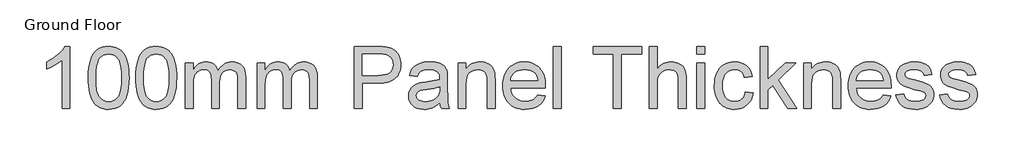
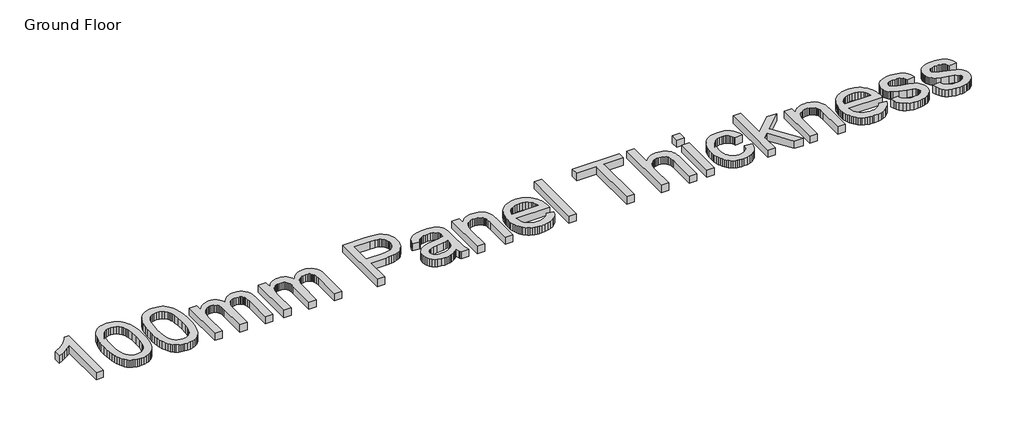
# One storey, part 8 of 8: 1 proxy.
"""IFC4 building model written with IfcOpenShell, lengths in millimetres."""

import ifcopenshell
import ifcopenshell.guid

model = None  # the IFC model being written
_history = None  # IfcOwnerHistory: only IFC2X3 demands one
_inside = {}  # id of a spatial element -> (the spatial element, [elements in it])
_under = {}  # id of a project, library or spatial element -> (it, [spatial elements below it])
_declared = {}  # id of a project -> (the project, [libraries it declares])
_typed = {}  # id of a type object -> (the type object, [elements of that type])
_made_of = {}  # id of a material, layer set ... -> (it, [elements and type objects made of it])


def new_model(schema):
    """Start an empty IFC model of exactly this schema.

    Asked for "IFC4X3", IfcOpenShell would pick the latest addendum, in which some entities
    have other attributes; the version numbers below select the first issue.
    IFC2X3 requires an IfcOwnerHistory on every rooted entity: one is made here for all.
    """
    global model, _history
    if schema == "IFC4X3":
        model = ifcopenshell.file(schema_version=(4, 3, 0, 0))
    else:
        model = ifcopenshell.file(schema=schema)
    _inside.clear()
    _under.clear()
    _declared.clear()
    _typed.clear()
    _made_of.clear()
    _history = None
    if model.schema == "IFC2X3":
        org = make("IfcOrganization", Name="unknown")
        user = make(
            "IfcPersonAndOrganization",
            ThePerson=make("IfcPerson", FamilyName="unknown"),
            TheOrganization=org,
        )
        app = make(
            "IfcApplication",
            ApplicationDeveloper=org,
            Version="unknown",
            ApplicationFullName="unknown",
            ApplicationIdentifier="unknown",
        )
        _history = make(
            "IfcOwnerHistory",
            OwningUser=user,
            OwningApplication=app,
            ChangeAction="ADDED",
            CreationDate=0,
        )
    return model


def make(cls, **values):
    """One entity of the class cls with the attributes given. An attribute that is None is left unset."""
    return model.create_entity(
        cls, **{name: value for name, value in values.items() if value is not None}
    )


def rooted(cls, **values):
    """An entity with a GlobalId (a new one), such as an element, a storey or a relation."""
    return make(cls, GlobalId=ifcopenshell.guid.new(), OwnerHistory=_history, **values)


def si_unit(unit_type, name, prefix=None):
    """IfcSIUnit, for example si_unit("LENGTHUNIT", "METRE", prefix="MILLI")."""
    return make("IfcSIUnit", UnitType=unit_type, Prefix=prefix, Name=name)


def assignment(units):
    """IfcUnitAssignment: the units of a project."""
    return None if units is None else make("IfcUnitAssignment", Units=units)


def point(xyz):
    """IfcCartesianPoint."""
    return None if xyz is None else make("IfcCartesianPoint", Coordinates=xyz)


def direction(xyz):
    """IfcDirection."""
    return None if xyz is None else make("IfcDirection", DirectionRatios=xyz)


def frame(location, z_axis=None, x_axis=None):
    """IfcAxis2Placement3D, a coordinate frame: its origin and axes. An axis left out is left unset."""
    return make(
        "IfcAxis2Placement3D",
        Location=point(location),
        Axis=direction(z_axis),
        RefDirection=direction(x_axis),
    )


def origin():
    """The frame at (0, 0, 0) with its axes left unset."""
    return frame((0.0, 0.0, 0.0))


def origin_with_axes():
    """The frame at (0, 0, 0) with the z axis (0, 0, 1) and the x axis (1, 0, 0) written out."""
    return frame((0.0, 0.0, 0.0), z_axis=(0.0, 0.0, 1.0), x_axis=(1.0, 0.0, 0.0))


def place(relative_to, where):
    """IfcLocalPlacement: puts the frame where relative to a parent placement (None: the world)."""
    return make(
        "IfcLocalPlacement", PlacementRelTo=relative_to, RelativePlacement=where
    )


def context(
    kind, dimensions, precision=None, world=None, true_north=None, identifier=None
):
    """IfcGeometricRepresentationContext, for example the 3D "Model" context."""
    return make(
        "IfcGeometricRepresentationContext",
        ContextIdentifier=identifier,
        ContextType=kind,
        CoordinateSpaceDimension=dimensions,
        Precision=precision,
        WorldCoordinateSystem=world,
        TrueNorth=true_north,
    )


def project(units=None, contexts=None):
    """IfcProject with its units and contexts."""
    return rooted(
        "IfcProject",
        Name="project",
        RepresentationContexts=contexts,
        UnitsInContext=assignment(units),
    )


def spatial(cls, under=None, at=None, **own):
    """A site, building, storey or space (cls), placed at a placement, below another one or the project."""
    s = rooted(cls, ObjectPlacement=at, **own)
    if under is not None:
        _under.setdefault(under.id(), (under, []))[1].append(s)
    return s


def polyline(points):
    """IfcPolyline through the points."""
    return make("IfcPolyline", Points=[point(p) for p in points])


def outline(outer, holes=None, kind="AREA"):
    """IfcArbitraryClosedProfileDef: a profile drawn as a closed curve; with holes, ...WithVoids."""
    if holes is None:
        return make("IfcArbitraryClosedProfileDef", ProfileType=kind, OuterCurve=outer)
    return make(
        "IfcArbitraryProfileDefWithVoids",
        ProfileType=kind,
        OuterCurve=outer,
        InnerCurves=holes,
    )


def extrude(swept, where, along, depth):
    """IfcExtrudedAreaSolid: the profile swept, set in the frame where, extruded along a direction by depth."""
    return make(
        "IfcExtrudedAreaSolid",
        SweptArea=swept,
        Position=where,
        ExtrudedDirection=direction(along),
        Depth=depth,
    )


def shape(context_of_items, identifier, shape_type, items):
    """IfcShapeRepresentation: the items that make up one representation, for example the "Body"."""
    return make(
        "IfcShapeRepresentation",
        ContextOfItems=context_of_items,
        RepresentationIdentifier=identifier,
        RepresentationType=shape_type,
        Items=items,
    )


def made_of(thing, what):
    """Note that an element or type object is made of a material, layer set ...; save() writes the relation."""
    if what is not None:
        _made_of.setdefault(what.id(), (what, []))[1].append(thing)
    return thing


def element(
    cls,
    number,
    at=None,
    inside=None,
    cuts=None,
    type_object=None,
    material=None,
    context=None,
    identifier="Body",
    shape_type=None,
    held_by="IfcProductDefinitionShape",
    body=None,
    shapes=None,
    **own,
):
    """One element of the class cls, such as IfcWall. Its Tag is "e" and its number.

    at: its placement. inside: the storey or other place that contains it. cuts: it is an
    opening in that element (IfcRelVoidsElement). A single representation is given by context,
    identifier, shape_type and body (its items); several are given by shapes. held_by: the class
    of the entity that holds the representations. save() writes the other relations.
    """
    e = rooted(cls, Tag="e%d" % number, ObjectPlacement=at, **own)
    if body is not None:
        shapes = [shape(context, identifier, shape_type, body)]
    if shapes is not None:
        e.Representation = make(held_by, Representations=shapes)
    if inside is not None:
        _inside.setdefault(inside.id(), (inside, []))[1].append(e)
    if cuts is not None:
        rooted(
            "IfcRelVoidsElement", RelatingBuildingElement=cuts, RelatedOpeningElement=e
        )
    if type_object is not None:
        _typed.setdefault(type_object.id(), (type_object, []))[1].append(e)
    return made_of(e, material)


def aggregate(whole, parts):
    """IfcRelAggregates: a whole, such as a stair, and the parts it consists of."""
    return rooted("IfcRelAggregates", RelatingObject=whole, RelatedObjects=parts)


def save(model, path):
    """Write the relations noted so far, then the file.

    IfcRelAggregates (storeys below a building ...), IfcRelContainedInSpatialStructure (elements
    in a storey), IfcRelDefinesByType, IfcRelAssociatesMaterial and IfcRelDeclares: one each for
    every whole, place, type object, material and project.
    """
    for whole, parts in _under.values():
        aggregate(whole, parts)
    for where, things in _inside.values():
        rooted(
            "IfcRelContainedInSpatialStructure",
            RelatedElements=things,
            RelatingStructure=where,
        )
    for kind, things in _typed.values():
        rooted("IfcRelDefinesByType", RelatedObjects=things, RelatingType=kind)
    for what, things in _made_of.values():
        rooted("IfcRelAssociatesMaterial", RelatedObjects=things, RelatingMaterial=what)
    for by, libraries in _declared.values():
        rooted("IfcRelDeclares", RelatingContext=by, RelatedDefinitions=libraries)
    model.write(path)


model = new_model("IFC4")

# Units and contexts
model_context = context("Model", 3, world=origin())
ifc_project = project(units=[si_unit("LENGTHUNIT", "METRE", prefix="MILLI")], contexts=[model_context])

# Site, building, storey
site = spatial("IfcSite", under=ifc_project)
building = spatial("IfcBuilding", under=site)
storey = spatial("IfcBuildingStorey", under=building, Name="Ground Floor", Elevation=0.0)

# Proxy
placement = place(None, origin())
element("IfcBuildingElementProxy", 1, Name="1200mm Arial", ObjectType="1200mm Arial", at=placement, inside=storey, context=model_context, shape_type="SweptSolid", body=[
    extrude(outline(polyline([(11867.9925063, 10511.1336271), (11721.0834154, 10511.1336271), (11721.0834154, 11427.0199908), (11659.7517393, 11377.4166527), (11581.9214836, 11327.8850476), (11500.2176484, 11284.5942095), (11427.2652336, 11253.7131726), (11427.2652336, 11392.5881726), (11486.8842854, 11422.4828814), (11542.647691, 11455.3545078), (11594.5554502, 11491.2030519), (11642.6075631, 11530.0285135), (11685.3693707, 11570.0375689), (11721.4062137, 11609.4368942), (11750.7180922, 11648.2264894), (11773.3050063, 11686.4063544), (11867.9925063, 11686.4063544), (11867.9925063, 10511.1336271)])), origin_with_axes(), (0.0, 0.0, 1.0), 150.0),
    extrude(outline(polyline([(12216.9015972, 11089.3012408), (12219.6005496, 11188.1223523), (12227.6974069, 11277.4209141), (12241.1921689, 11357.1969261), (12260.0848359, 11427.4503885), (12284.294708, 11488.7551648), (12313.7410859, 11541.6851186), (12348.4239694, 11586.24025), (12388.3433586, 11622.420559), (12433.6337528, 11650.4143445), (12484.4296512, 11670.4099055), (12540.7310539, 11682.4072422), (12602.5379609, 11686.4063544), (12648.9850489, 11684.0391669), (12693.0649495, 11676.9376044), (12734.7776626, 11665.1016669), (12774.1231881, 11648.5313544), (12810.1510645, 11627.5046321), (12841.9108302, 11602.2994652), (12869.402485, 11572.9158537), (12892.626029, 11539.3537976), (12912.7471228, 11501.7477962), (12930.9314268, 11460.2323487), (12961.4896654, 11365.4731158), (12973.1642037, 11309.7455767), (12981.5031597, 11245.1410845), (12986.5065333, 11171.6596392), (12988.1743245, 11089.3012408), (12985.5022719, 10991.1077926), (12977.4861143, 10902.2575618), (12964.1258515, 10822.7505483), (12945.4214836, 10752.5867521), (12921.3999104, 10691.255076), (12892.0880319, 10638.2444226), (12857.4858479, 10593.5547919), (12817.5933586, 10557.186184), (12772.2491647, 10529.0040994), (12721.2918671, 10508.8740391), (12664.7214658, 10496.7960028), (12602.5379609, 10492.7699908), (12560.9328472, 10494.5184815), (12521.6231881, 10499.7639538), (12484.6089836, 10508.5064077), (12449.8902336, 10520.745843), (12417.4669381, 10536.48226), (12387.3390972, 10555.7156584), (12359.5067109, 10578.4460384), (12333.969779, 10604.6733999), (12306.5319239, 10646.2022972), (12282.7524495, 10693.1739325), (12262.6313557, 10745.5883058), (12246.1686427, 10803.4454169), (12233.3643103, 10866.745266), (12224.2183586, 10935.487853), (12218.7307876, 11009.6731779), (12216.9015972, 11089.3012408)]), holes=[polyline([(12363.8106881, 11089.5881726), (12368.1146654, 10961.8766136), (12381.0265972, 10858.5004595), (12390.7105461, 10815.9381593), (12402.5464836, 10779.4597102), (12416.5344097, 10749.0651124), (12432.6743245, 10724.7543658), (12469.1146654, 10687.533929), (12509.5720518, 10660.9479027), (12554.0464836, 10644.9962869), (12602.5379609, 10639.6790817), (12651.0294381, 10645.0142202), (12695.5038699, 10661.0196357), (12735.9612563, 10687.6953281), (12772.4015972, 10725.0412976), (12788.541512, 10749.4103272), (12802.5294381, 10779.8363082), (12814.3653756, 10816.3192406), (12824.0493245, 10858.8591243), (12836.9612563, 10962.1097457), (12841.2652336, 11089.5881726), (12837.1047222, 11213.9193161), (12824.6231881, 11315.4752465), (12815.2620376, 11357.7125068), (12803.8206313, 11394.2559638), (12790.2989694, 11425.1056176), (12774.6970518, 11450.261468), (12738.866441, 11489.3021286), (12697.9427904, 11517.1883146), (12651.9261001, 11533.9200263), (12600.8163699, 11539.4972635), (12552.575958, 11534.5835561), (12508.8547222, 11519.842434), (12469.6526626, 11495.273897), (12434.969779, 11460.8779453), (12418.2918671, 11433.045559), (12403.8376768, 11399.904934), (12391.607208, 11361.4560703), (12381.6004609, 11317.698968), (12368.2581313, 11214.2600476), (12363.8106881, 11089.5881726)])]), origin_with_axes(), (0.0, 0.0, 1.0), 150.0),
    extrude(outline(polyline([(13116.719779, 11089.3012408), (13119.4187314, 11188.1223523), (13127.5155887, 11277.4209141), (13141.0103508, 11357.1969261), (13159.9030177, 11427.4503885), (13184.1128898, 11488.7551648), (13213.5592677, 11541.6851186), (13248.2421512, 11586.24025), (13288.1615404, 11622.420559), (13333.4519346, 11650.4143445), (13384.247833, 11670.4099055), (13440.5492357, 11682.4072422), (13502.3561427, 11686.4063544), (13548.8032307, 11684.0391669), (13592.8831313, 11676.9376044), (13634.5958444, 11665.1016669), (13673.9413699, 11648.5313544), (13709.9692464, 11627.5046321), (13741.729012, 11602.2994652), (13769.2206668, 11572.9158537), (13792.4442109, 11539.3537976), (13812.5653046, 11501.7477962), (13830.7496086, 11460.2323487), (13861.3078472, 11365.4731158), (13872.9823856, 11309.7455767), (13881.3213415, 11245.1410845), (13886.3247151, 11171.6596392), (13887.9925063, 11089.3012408), (13885.3204537, 10991.1077926), (13877.3042961, 10902.2575618), (13863.9440333, 10822.7505483), (13845.2396654, 10752.5867521), (13821.2180922, 10691.255076), (13791.9062137, 10638.2444226), (13757.3040297, 10593.5547919), (13717.4115404, 10557.186184), (13672.0673465, 10529.0040994), (13621.1100489, 10508.8740391), (13564.5396476, 10496.7960028), (13502.3561427, 10492.7699908), (13460.751029, 10494.5184815), (13421.4413699, 10499.7639538), (13384.4271654, 10508.5064077), (13349.7084154, 10520.745843), (13317.2851199, 10536.48226), (13287.157279, 10555.7156584), (13259.3248927, 10578.4460384), (13233.7879609, 10604.6733999), (13206.3501057, 10646.2022972), (13182.5706313, 10693.1739325), (13162.4495376, 10745.5883058), (13145.9868245, 10803.4454169), (13133.1824921, 10866.745266), (13124.0365404, 10935.487853), (13118.5489694, 11009.6731779), (13116.719779, 11089.3012408)]), holes=[polyline([(13263.6288699, 11089.5881726), (13267.9328472, 10961.8766136), (13280.844779, 10858.5004595), (13290.5287279, 10815.9381593), (13302.3646654, 10779.4597102), (13316.3525915, 10749.0651124), (13332.4925063, 10724.7543658), (13368.9328472, 10687.533929), (13409.3902336, 10660.9479027), (13453.8646654, 10644.9962869), (13502.3561427, 10639.6790817), (13550.8476199, 10645.0142202), (13595.3220518, 10661.0196357), (13635.7794381, 10687.6953281), (13672.219779, 10725.0412976), (13688.3596938, 10749.4103272), (13702.3476199, 10779.8363082), (13714.1835574, 10816.3192406), (13723.8675063, 10858.8591243), (13736.7794381, 10962.1097457), (13741.0834154, 11089.5881726), (13736.922904, 11213.9193161), (13724.4413699, 11315.4752465), (13715.0802194, 11357.7125068), (13703.6388131, 11394.2559638), (13690.1171512, 11425.1056176), (13674.5152336, 11450.261468), (13638.6846228, 11489.3021286), (13597.7609722, 11517.1883146), (13551.7442819, 11533.9200263), (13500.6345518, 11539.4972635), (13452.3941398, 11534.5835561), (13408.672904, 11519.842434), (13369.4708444, 11495.273897), (13334.7879609, 11460.8779453), (13318.1100489, 11433.045559), (13303.6558586, 11399.904934), (13291.4253898, 11361.4560703), (13281.4186427, 11317.698968), (13268.0763131, 11214.2600476), (13263.6288699, 11089.5881726)])]), origin_with_axes(), (0.0, 0.0, 1.0), 150.0),
    extrude(outline(polyline([(14053.2652336, 10511.1336271), (14053.2652336, 11374.2245362), (14200.1743245, 11374.2245362), (14200.1743245, 11232.1932862), (14220.6899495, 11266.5802713), (14244.3618245, 11297.4344084), (14271.1899495, 11324.7556975), (14301.1743245, 11348.5441385), (14333.830752, 11367.8134034), (14368.6750347, 11381.5771641), (14405.7071725, 11389.8354205), (14444.9271654, 11392.5881726), (14487.805539, 11389.7816207), (14526.6310006, 11381.3619652), (14561.4035503, 11367.329206), (14592.1231881, 11347.683343), (14618.7002478, 11322.9803068), (14641.0450631, 11293.7760277), (14659.1576341, 11260.0705057), (14673.0379609, 11221.8637408), (14698.8707911, 11261.8772795), (14726.5866114, 11296.5556797), (14756.1854218, 11325.8989414), (14787.6672222, 11349.9070646), (14821.0320127, 11368.5800494), (14856.2797932, 11381.9178956), (14893.4105638, 11389.9206033), (14932.4243245, 11392.5881726), (14991.2363806, 11388.149696), (15042.857208, 11374.8342663), (15087.2868067, 11352.6418835), (15124.5251768, 11321.5725476), (15153.962588, 11281.2675938), (15174.9893103, 11231.3683573), (15187.6053437, 11171.8748381), (15191.8106881, 11102.7870362), (15191.8106881, 10511.1336271), (15044.9015972, 10511.1336271), (15044.9015972, 11039.6620362), (15041.4942819, 11112.9372493), (15031.2723359, 11162.3253885), (15023.0768458, 11180.1420611), (15012.119637, 11196.1474766), (14998.4007094, 11210.341635), (14981.9200631, 11222.7245362), (14963.2784616, 11232.7671499), (14943.0766682, 11239.9404453), (14897.9925063, 11245.6790817), (14856.3604928, 11242.0027678), (14818.4047932, 11230.973826), (14784.1254076, 11212.5922564), (14753.5223359, 11186.858059), (14728.3530354, 11153.0180377), (14710.3749637, 11110.3189965), (14699.5881207, 11058.7609354), (14695.9925063, 10998.3438544), (14695.9925063, 10511.1336271), (14549.0834154, 10511.1336271), (14549.0834154, 11056.0171499), (14546.9583266, 11100.5274482), (14540.5830603, 11139.0839112), (14529.9576164, 11171.6865391), (14515.0819949, 11198.3353317), (14495.3643991, 11219.0482223), (14470.2130319, 11233.8431442), (14439.6278934, 11242.7200973), (14403.6089836, 11245.6790817), (14374.7544026, 11243.7064254), (14347.0116824, 11237.7884567), (14320.3808231, 11227.9251754), (14294.8618245, 11214.1165817), (14271.6203472, 11196.5061413), (14251.8220518, 11175.2373203), (14235.4669381, 11150.3101186), (14222.5550063, 11121.7245362), (14212.763458, 11087.9562479), (14205.7694949, 11047.4809283), (14200.1743245, 10946.4091953), (14200.1743245, 10511.1336271), (14053.2652336, 10511.1336271)])), origin_with_axes(), (0.0, 0.0, 1.0), 150.0),
    extrude(outline(polyline([(15412.1743245, 10511.1336271), (15412.1743245, 11374.2245362), (15559.0834154, 11374.2245362), (15559.0834154, 11232.1932862), (15579.5990404, 11266.5802713), (15603.2709154, 11297.4344084), (15630.0990404, 11324.7556975), (15660.0834154, 11348.5441385), (15692.739843, 11367.8134034), (15727.5841256, 11381.5771641), (15764.6162634, 11389.8354205), (15803.8362563, 11392.5881726), (15846.7146299, 11389.7816207), (15885.5400915, 11381.3619652), (15920.3126412, 11367.329206), (15951.032279, 11347.683343), (15977.6093387, 11322.9803068), (15999.954154, 11293.7760277), (16018.0667251, 11260.0705057), (16031.9470518, 11221.8637408), (16057.779882, 11261.8772795), (16085.4957023, 11296.5556797), (16115.0945127, 11325.8989414), (16146.5763131, 11349.9070646), (16179.9411036, 11368.5800494), (16215.1888841, 11381.9178956), (16252.3196547, 11389.9206033), (16291.3334154, 11392.5881726), (16350.1454715, 11388.149696), (16401.7662989, 11374.8342663), (16446.1958976, 11352.6418835), (16483.4342677, 11321.5725476), (16512.8716789, 11281.2675938), (16533.8984012, 11231.3683573), (16546.5144346, 11171.8748381), (16550.719779, 11102.7870362), (16550.719779, 10511.1336271), (16403.8106881, 10511.1336271), (16403.8106881, 11039.6620362), (16400.4033728, 11112.9372493), (16390.1814268, 11162.3253885), (16381.9859367, 11180.1420611), (16371.0287279, 11196.1474766), (16357.3098003, 11210.341635), (16340.829154, 11222.7245362), (16322.1875525, 11232.7671499), (16301.9857591, 11239.9404453), (16256.9015972, 11245.6790817), (16215.2695837, 11242.0027678), (16177.3138841, 11230.973826), (16143.0344985, 11212.5922564), (16112.4314268, 11186.858059), (16087.2621263, 11153.0180377), (16069.2840546, 11110.3189965), (16058.4972116, 11058.7609354), (16054.9015972, 10998.3438544), (16054.9015972, 10511.1336271), (15907.9925063, 10511.1336271), (15907.9925063, 11056.0171499), (15905.8674175, 11100.5274482), (15899.4921512, 11139.0839112), (15888.8667073, 11171.6865391), (15873.9910859, 11198.3353317), (15854.27349, 11219.0482223), (15829.1221228, 11233.8431442), (15798.5369843, 11242.7200973), (15762.5180745, 11245.6790817), (15733.6634935, 11243.7064254), (15705.9207734, 11237.7884567), (15679.289914, 11227.9251754), (15653.7709154, 11214.1165817), (15630.5294381, 11196.5061413), (15610.7311427, 11175.2373203), (15594.376029, 11150.3101186), (15581.4640972, 11121.7245362), (15571.6725489, 11087.9562479), (15564.6785859, 11047.4809283), (15559.0834154, 10946.4091953), (15559.0834154, 10511.1336271), (15412.1743245, 10511.1336271)])), origin_with_axes(), (0.0, 0.0, 1.0), 150.0),
    extrude(outline(polyline([(17248.5379609, 10511.1336271), (17248.5379609, 11686.4063544), (17684.1004609, 11686.4063544), (17785.5308586, 11683.6087692), (17859.7027336, 11675.2160135), (17900.581551, 11666.4018267), (17937.9992535, 11654.3058573), (17971.9558408, 11638.9281051), (18002.4513131, 11620.2685703), (18029.8084687, 11597.9416882), (18054.3501057, 11571.5618942), (18076.0762243, 11541.1291882), (18094.9868245, 11506.6435703), (18110.3018103, 11469.2438011), (18121.2410859, 11430.0686413), (18127.8046512, 11389.1180909), (18129.9925063, 11346.3921499), (18124.0835042, 11274.2467308), (18116.6972515, 11240.3394599), (18106.3564978, 11207.8758146), (18093.061243, 11176.8557951), (18076.8114871, 11147.2794013), (18057.6072302, 11119.1466332), (18035.4484722, 11092.4574908), (18009.4340679, 11068.1131193), (17978.6628721, 11047.0146641), (17943.1348847, 11029.162125), (17902.8501057, 11014.5555021), (17857.8085352, 11003.1947955), (17808.0101732, 10995.080005), (17753.4550196, 10990.2111307), (17694.1430745, 10988.5881726), (17395.4470518, 10988.5881726), (17395.4470518, 10511.1336271), (17248.5379609, 10511.1336271)]), holes=[polyline([(17395.4470518, 11135.4972635), (17702.751029, 11135.4972635), (17773.4079893, 11138.8687124), (17833.0180745, 11148.983059), (17881.5812847, 11165.8403033), (17919.0976199, 11189.4404453), (17947.0914055, 11219.1558217), (17967.0869665, 11254.3587692), (17979.0843032, 11295.0492877), (17983.0834154, 11341.2273771), (17980.7251945, 11375.5157294), (17973.6505319, 11407.2216953), (17961.8594275, 11436.3452749), (17945.3518813, 11462.886468), (17925.0066221, 11485.9844794), (17901.7023785, 11504.7785135), (17875.4391505, 11519.2685703), (17846.2169381, 11529.4546499), (17789.547904, 11536.9866101), (17699.3078472, 11539.4972635), (17395.4470518, 11539.4972635), (17395.4470518, 11135.4972635)])]), origin_with_axes(), (0.0, 0.0, 1.0), 150.0),
    extrude(outline(polyline([(18864.5379609, 10621.3154453), (18829.7026448, 10588.6231513), (18794.3472648, 10561.1314965), (18758.4718209, 10538.8404808), (18722.0763131, 10521.7501044), (18684.7482769, 10509.0713047), (18646.0752478, 10500.0150192), (18606.0572258, 10494.5812479), (18564.6942109, 10492.7699908), (18499.2827229, 10497.1277678), (18441.9232591, 10510.2010987), (18392.6158195, 10531.9899837), (18351.360404, 10562.4944226), (18318.784676, 10599.7776257), (18295.5162989, 10641.9028033), (18281.5552726, 10688.8699553), (18276.9015972, 10740.6790817), (18278.6590546, 10771.8291172), (18283.9314268, 10801.5803601), (18292.7187137, 10829.9328104), (18305.0209154, 10856.886468), (18320.1834687, 10881.8495362), (18337.5518103, 10904.230218), (18357.1259403, 10924.0285135), (18378.9058586, 10941.2444226), (18427.5049353, 10969.2202749), (18481.7709154, 10989.448968), (18534.6381029, 11000.7110419), (18608.8817109, 11011.542718), (18759.0905177, 11034.7841953), (18817.0866114, 11047.911326), (18863.6771654, 11062.042718), (18864.5379609, 11094.7529453), (18862.0093742, 11130.3683573), (18854.4236143, 11160.3168658), (18841.780681, 11184.5984709), (18824.0805745, 11203.2131726), (18793.4864694, 11221.7920078), (18756.2211995, 11235.0626044), (18712.2847648, 11243.0249624), (18661.6771654, 11245.6790817), (18614.6203472, 11243.9126577), (18574.1629609, 11238.6133857), (18540.3050063, 11229.7812656), (18513.0464836, 11217.4162976), (18490.6478685, 11200.5500867), (18471.369637, 11178.2142379), (18455.211789, 11150.4087514), (18442.1743245, 11117.1336271), (18295.2652336, 11135.4972635), (18306.4466079, 11177.8197067), (18320.7662989, 11215.8381726), (18338.2243067, 11249.5526612), (18358.8206313, 11278.9631726), (18383.442968, 11304.6615036), (18412.979012, 11327.239451), (18447.4287634, 11346.6970149), (18486.7922222, 11363.0341953), (18530.2713593, 11375.9640604), (18577.0681455, 11385.1996783), (18627.1825809, 11390.741049), (18680.6146654, 11392.5881726), (18732.8452229, 11390.9562479), (18779.928941, 11386.0604737), (18821.8658195, 11377.9008502), (18858.6558586, 11366.4773771), (18890.6039232, 11352.5880838), (18918.0148785, 11337.0309993), (18940.8887243, 11319.8061236), (18959.2254609, 11300.9134567), (18974.0921157, 11279.8867344), (18986.5557165, 11256.2596925), (19004.2737563, 11201.2046499), (19009.6537279, 11150.417718), (19011.4470518, 11072.6591953), (19011.4470518, 10889.8836271), (19013.3121086, 10730.6723345), (19018.907279, 10634.6577749), (19029.954154, 10571.5686413), (19048.1743245, 10511.1336271), (18901.2652336, 10511.1336271), (18888.2098359, 10535.6662976), (18877.7368245, 10562.2074908), (18864.5379609, 10621.3154453)]), holes=[polyline([(18864.5379609, 10915.1336271), (18820.135262, 10902.4189609), (18765.8334154, 10890.6726896), (18627.532279, 10870.0853317), (18551.3160148, 10858.8232578), (18501.1388131, 10846.2699908), (18468.2492535, 10829.9866101), (18443.8959154, 10807.5341953), (18428.8319949, 10780.6343374), (18423.8106881, 10751.0086271), (18426.545507, 10728.1796144), (18434.7499637, 10707.3232578), (18448.4240582, 10688.4395575), (18467.5677904, 10671.5285135), (18492.001828, 10657.5943871), (18521.5468387, 10647.6414396), (18556.2028224, 10641.6696712), (18595.969779, 10639.6790817), (18636.5706313, 10641.8759034), (18674.876029, 10648.4663686), (18710.8859722, 10659.4504773), (18744.6004609, 10674.8282294), (18775.0152336, 10693.3263651), (18801.126029, 10713.6716243), (18822.9328472, 10735.8640071), (18840.4356881, 10759.9035135), (18850.6038344, 10781.4233999), (18857.8667961, 10807.5341953), (18862.2245731, 10838.2358999), (18863.6771654, 10873.5285135), (18864.5379609, 10915.1336271)])]), origin_with_axes(), (0.0, 0.0, 1.0), 150.0),
    extrude(outline(polyline([(19213.4470518, 10511.1336271), (19213.4470518, 11374.2245362), (19360.3561427, 11374.2245362), (19360.3561427, 11253.7131726), (19384.5929147, 11286.2620007), (19411.3941398, 11314.4709851), (19440.7598181, 11338.3401257), (19472.6899495, 11357.8694226), (19507.184534, 11373.0588757), (19544.2435716, 11383.9084851), (19583.8670624, 11390.4182507), (19626.0550063, 11392.5881726), (19663.0243778, 11390.8396818), (19698.4694239, 11385.5942095), (19732.3901448, 11376.8517557), (19764.7865404, 11364.6123203), (19794.4301839, 11349.5304666), (19820.0926484, 11332.2607578), (19841.7739339, 11312.8031939), (19859.4740404, 11291.1577749), (19886.194566, 11241.4109709), (19903.5180745, 11183.1279453), (19909.3284438, 11127.3914396), (19911.2652336, 11041.0966953), (19911.2652336, 10511.1336271), (19764.3561427, 10511.1336271), (19764.3561427, 11021.2983999), (19760.1238984, 11097.2635987), (19754.833593, 11127.0148416), (19747.4271654, 11151.2785135), (19737.3397187, 11171.7134389), (19724.0063557, 11189.9784425), (19707.4270766, 11206.0735242), (19687.6018813, 11219.998684), (19665.2122329, 11231.233858), (19640.9395944, 11239.2589823), (19614.7839658, 11244.0740568), (19586.7453472, 11245.6790817), (19542.1364161, 11242.0745007), (19500.7016682, 11231.2607578), (19462.4411036, 11213.237853), (19427.3547222, 11188.0057862), (19411.6519301, 11171.9689876), (19398.0428437, 11152.6952394), (19386.5274628, 11130.1845416), (19377.1057876, 11104.4368942), (19364.5435539, 11043.2307507), (19360.3561427, 10969.076809), (19360.3561427, 10511.1336271), (19213.4470518, 10511.1336271)])), origin_with_axes(), (0.0, 0.0, 1.0), 150.0),
    extrude(outline(polyline([(20717.5436427, 10768.2245362), (20861.5834154, 10749.8608999), (20839.498632, 10692.1696712), (20809.6846228, 10641.3289396), (20772.1413877, 10597.3387053), (20726.8689268, 10560.198968), (20674.3335042, 10530.6987905), (20615.0013841, 10509.6272351), (20548.8725667, 10496.9843019), (20475.9470518, 10492.7699908), (20429.127849, 10494.5879728), (20384.7923998, 10500.041919), (20342.9407041, 10509.1318294), (20303.572762, 10521.8577038), (20266.6885734, 10538.2195424), (20232.2881384, 10558.2173452), (20200.3714569, 10581.851112), (20170.938529, 10609.120843), (20144.5094186, 10639.6723567), (20121.6041895, 10673.1514716), (20102.2228419, 10709.5581877), (20086.3653756, 10748.892505), (20074.0317908, 10791.1544235), (20065.2220873, 10836.3439432), (20059.9362652, 10884.4610641), (20058.1743245, 10935.5057862), (20059.9541984, 10988.2877908), (20065.2938202, 11038.0301115), (20074.1931899, 11084.7327482), (20086.6523074, 11128.395701), (20102.6711729, 11169.0189698), (20122.2497861, 11206.6025547), (20145.3881473, 11241.1464556), (20172.0862563, 11272.6506726), (20201.6223003, 11300.7610242), (20233.2744665, 11325.1233288), (20267.0427549, 11345.7375867), (20302.9271654, 11362.6037976), (20340.9276981, 11375.7219617), (20381.0443529, 11385.0920788), (20423.2771299, 11390.7141492), (20467.626029, 11392.5881726), (20510.5245775, 11390.7186325), (20551.4190866, 11385.1100121), (20590.3095562, 11375.7623114), (20627.1959864, 11362.6755305), (20662.0783772, 11345.8496694), (20694.9567286, 11325.284728), (20725.8310406, 11300.9807063), (20754.7013131, 11272.9376044), (20780.8278002, 11241.5051204), (20803.4707556, 11207.0329524), (20822.6301794, 11169.5211005), (20838.3060716, 11128.9695646), (20850.4984323, 11085.3783448), (20859.2072613, 11038.7474411), (20864.4325587, 10989.0768533), (20866.1743245, 10936.3665817), (20865.313529, 10896.7699908), (20205.0834154, 10896.7699908), (20213.5927371, 10838.1462337), (20230.5127478, 10786.8033715), (20255.8434474, 10742.7414041), (20289.5848359, 10705.9603317), (20329.8718564, 10676.9622848), (20374.8394523, 10656.2493942), (20424.4876235, 10643.8216598), (20478.8163699, 10639.6790817), (20519.4530887, 10641.5979382), (20557.0052904, 10647.3545078), (20591.4729751, 10656.9487905), (20622.8561427, 10670.3807862), (20651.1547932, 10688.0091598), (20676.3689268, 10710.192576), (20698.4985432, 10736.9310348), (20717.5436427, 10768.2245362)]), holes=[polyline([(20205.0834154, 11043.6790817), (20719.2652336, 11043.6790817), (20711.7153401, 11085.2483288), (20699.3952052, 11121.2941385), (20682.3048287, 11151.8165107), (20660.4442109, 11176.8154453), (20620.3813557, 11206.9432862), (20574.7950631, 11228.4631726), (20523.685333, 11241.3751044), (20467.0521654, 11245.6790817), (20415.3954715, 11242.2448665), (20368.0248216, 11231.9422209), (20324.9402158, 11214.7711449), (20286.141654, 11190.7316385), (20253.5838593, 11160.9355625), (20229.2215546, 11126.4947777), (20213.05474, 11087.4092841), (20205.0834154, 11043.6790817)])]), origin_with_axes(), (0.0, 0.0, 1.0), 150.0),
    extrude(outline(polyline([(21013.0834154, 10511.1336271), (21013.0834154, 11686.4063544), (21159.9925063, 11686.4063544), (21159.9925063, 10511.1336271), (21013.0834154, 10511.1336271)])), origin_with_axes(), (0.0, 0.0, 1.0), 150.0),
    extrude(outline(polyline([(22151.6288699, 10511.1336271), (22151.6288699, 11539.4972635), (21765.9925063, 11539.4972635), (21765.9925063, 11686.4063544), (22684.1743245, 11686.4063544), (22684.1743245, 11539.4972635), (22298.5379609, 11539.4972635), (22298.5379609, 10511.1336271), (22151.6288699, 10511.1336271)])), origin_with_axes(), (0.0, 0.0, 1.0), 150.0),
    extrude(outline(polyline([(22831.0834154, 10511.1336271), (22831.0834154, 11686.4063544), (22977.9925063, 11686.4063544), (22977.9925063, 11254.2870362), (23004.1436515, 11286.7013651), (23031.9536214, 11314.7937834), (23061.4224158, 11338.5642912), (23092.5500347, 11358.0128885), (23125.3364783, 11373.1395753), (23159.7817464, 11383.9443516), (23195.885839, 11390.4272173), (23233.6487563, 11392.5881726), (23279.5757805, 11390.2299517), (23322.3824211, 11383.1552891), (23362.0686782, 11371.3641847), (23398.6345518, 11354.8566385), (23431.1475134, 11334.188581), (23458.6750347, 11309.9159425), (23481.2171157, 11282.038723), (23498.7737563, 11250.5569226), (23511.9546867, 11213.5247848), (23521.369637, 11168.9965533), (23527.0186072, 11116.972228), (23528.9015972, 11057.451809), (23528.9015972, 10511.1336271), (23381.9925063, 10511.1336271), (23381.9925063, 11042.2444226), (23379.0693884, 11091.8477607), (23370.3000347, 11134.2060703), (23355.6844452, 11169.3193516), (23335.2226199, 11197.1876044), (23309.3987563, 11218.4026257), (23278.6970518, 11233.5562124), (23243.1175063, 11242.6483644), (23202.6601199, 11245.6790817), (23171.142453, 11243.6346925), (23140.5752478, 11237.5015249), (23110.9585042, 11227.2795788), (23082.2922222, 11212.9688544), (23056.127627, 11195.1611484), (23034.0159438, 11174.4482578), (23015.9571725, 11150.8301825), (23001.9513131, 11124.3069226), (22991.4693351, 11093.6590178), (22983.982208, 11057.6670078), (22979.4899317, 11016.3308928), (22977.9925063, 10969.6506726), (22977.9925063, 10511.1336271), (22831.0834154, 10511.1336271)])), origin_with_axes(), (0.0, 0.0, 1.0), 150.0),
    extrude(outline(polyline([(23730.9015972, 10511.1336271), (23730.9015972, 11374.2245362), (23877.8106881, 11374.2245362), (23877.8106881, 10511.1336271), (23730.9015972, 10511.1336271)])), origin_with_axes(), (0.0, 0.0, 1.0), 150.0),
    extrude(outline(polyline([(23730.9015972, 11539.4972635), (23730.9015972, 11686.4063544), (23877.8106881, 11686.4063544), (23877.8106881, 11539.4972635), (23730.9015972, 11539.4972635)])), origin_with_axes(), (0.0, 0.0, 1.0), 150.0),
    extrude(outline(polyline([(24649.0834154, 10823.3154453), (24795.9925063, 10804.951809), (24780.0139907, 10735.630875), (24755.0329893, 10674.2902323), (24721.049502, 10620.9298807), (24678.063529, 10575.5498203), (24627.8863273, 10539.3336449), (24572.329154, 10513.4649482), (24511.3920091, 10497.9437301), (24445.0748927, 10492.7699908), (24402.8129742, 10494.5745229), (24362.6806278, 10499.9881193), (24324.6778534, 10509.01078), (24288.8046512, 10521.642505), (24255.061021, 10537.8832942), (24223.446963, 10557.7331477), (24193.962477, 10581.1920655), (24166.6075631, 10608.2600476), (24141.9605683, 10638.6994785), (24120.5998394, 10672.2727429), (24102.5253765, 10708.9798407), (24087.7371796, 10748.820772), (24076.2352487, 10791.7955368), (24068.0195837, 10837.904135), (24063.0901848, 10887.1465666), (24061.4470518, 10939.5228317), (24064.2536036, 11007.068375), (24072.6732591, 11070.2561413), (24086.7060184, 11129.0861307), (24106.3518813, 11183.558343), (24131.7453472, 11232.5788509), (24163.0209154, 11275.0537266), (24200.1785859, 11310.9829702), (24243.2183586, 11340.3665817), (24290.1944772, 11363.2135277), (24339.1611853, 11379.5327749), (24390.1184829, 11389.3243232), (24443.0663699, 11392.5881726), (24508.2447258, 11388.1048629), (24567.2002478, 11374.654934), (24619.932936, 11352.2383857), (24666.4427904, 11320.855218), (24705.9407485, 11281.2227607), (24737.6377478, 11234.058343), (24761.5337883, 11179.3619652), (24777.6288699, 11117.1336271), (24630.719779, 11098.7699908), (24619.2514729, 11133.0852429), (24604.0709864, 11162.8633857), (24585.1783195, 11188.104419), (24562.5734722, 11208.808343), (24536.8303082, 11224.9392912), (24508.522691, 11236.461397), (24477.6506207, 11243.3746605), (24444.2140972, 11245.6790817), (24394.2969275, 11241.1419723), (24349.2755319, 11227.5306442), (24309.1499104, 11204.8450973), (24273.9200631, 11173.0853317), (24258.5535193, 11153.6188011), (24245.2358479, 11131.5160845), (24224.7471228, 11079.402093), (24212.4538877, 11016.7433573), (24208.3561427, 10943.5398771), (24212.3642215, 10869.2335028), (24224.388458, 10805.8484709), (24244.4288522, 10753.3847813), (24257.4551084, 10731.2484398), (24272.485404, 10711.842434), (24307.015855, 10680.2709673), (24346.4779466, 10657.7199198), (24390.8716789, 10644.1892912), (24440.1970518, 10639.6790817), (24479.9460752, 10642.4946002), (24516.2698501, 10650.9411555), (24549.1683763, 10665.0187479), (24578.641654, 10684.7273771), (24603.8647542, 10710.2822422), (24624.0127478, 10741.8985419), (24639.0856349, 10779.5762763), (24649.0834154, 10823.3154453)])), origin_with_axes(), (0.0, 0.0, 1.0), 150.0),
    extrude(outline(polyline([(24924.5379609, 10511.1336271), (24924.5379609, 11686.4063544), (25071.4470518, 11686.4063544), (25071.4470518, 11054.8694226), (25400.844779, 11374.2245362), (25603.9925063, 11374.2245362), (25270.5777336, 11050.8523771), (25622.3561427, 10511.1336271), (25450.7709154, 10511.1336271), (25165.2737563, 10948.7046499), (25071.4470518, 10857.7472635), (25071.4470518, 10511.1336271), (24924.5379609, 10511.1336271)])), origin_with_axes(), (0.0, 0.0, 1.0), 150.0),
    extrude(outline(polyline([(25750.9015972, 10511.1336271), (25750.9015972, 11374.2245362), (25897.8106881, 11374.2245362), (25897.8106881, 11253.7131726), (25922.0474601, 11286.2620007), (25948.8486853, 11314.4709851), (25978.2143635, 11338.3401257), (26010.1444949, 11357.8694226), (26044.6390795, 11373.0588757), (26081.6981171, 11383.9084851), (26121.3216079, 11390.4182507), (26163.5095518, 11392.5881726), (26200.4789232, 11390.8396818), (26235.9239694, 11385.5942095), (26269.8446903, 11376.8517557), (26302.2410859, 11364.6123203), (26331.8847293, 11349.5304666), (26357.5471938, 11332.2607578), (26379.2284793, 11312.8031939), (26396.9285859, 11291.1577749), (26423.6491114, 11241.4109709), (26440.9726199, 11183.1279453), (26446.7829893, 11127.3914396), (26448.719779, 11041.0966953), (26448.719779, 10511.1336271), (26301.8106881, 10511.1336271), (26301.8106881, 11021.2983999), (26297.5784438, 11097.2635987), (26292.2881384, 11127.0148416), (26284.8817109, 11151.2785135), (26274.7942641, 11171.7134389), (26261.4609012, 11189.9784425), (26244.8816221, 11206.0735242), (26225.0564268, 11219.998684), (26202.6667783, 11231.233858), (26178.3941398, 11239.2589823), (26152.2385113, 11244.0740568), (26124.1998927, 11245.6790817), (26079.5909616, 11242.0745007), (26038.1562137, 11231.2607578), (25999.8956491, 11213.237853), (25964.8092677, 11188.0057862), (25949.1064756, 11171.9689876), (25935.4973891, 11152.6952394), (25923.9820083, 11130.1845416), (25914.560333, 11104.4368942), (25901.9980993, 11043.2307507), (25897.8106881, 10969.076809), (25897.8106881, 10511.1336271), (25750.9015972, 10511.1336271)])), origin_with_axes(), (0.0, 0.0, 1.0), 150.0),
    extrude(outline(polyline([(27254.9981881, 10768.2245362), (27399.0379609, 10749.8608999), (27376.9531775, 10692.1696712), (27347.1391682, 10641.3289396), (27309.5959332, 10597.3387053), (27264.3234722, 10560.198968), (27211.7880496, 10530.6987905), (27152.4559296, 10509.6272351), (27086.3271121, 10496.9843019), (27013.4015972, 10492.7699908), (26966.5823944, 10494.5879728), (26922.2469452, 10500.041919), (26880.3952496, 10509.1318294), (26841.0273074, 10521.8577038), (26804.1431189, 10538.2195424), (26769.7426839, 10558.2173452), (26737.8260024, 10581.851112), (26708.3930745, 10609.120843), (26681.963964, 10639.6723567), (26659.058735, 10673.1514716), (26639.6773873, 10709.5581877), (26623.8199211, 10748.892505), (26611.4863362, 10791.1544235), (26602.6766327, 10836.3439432), (26597.3908106, 10884.4610641), (26595.6288699, 10935.5057862), (26597.4087439, 10988.2877908), (26602.7483657, 11038.0301115), (26611.6477354, 11084.7327482), (26624.1068529, 11128.395701), (26640.1257183, 11169.0189698), (26659.7043316, 11206.6025547), (26682.8426927, 11241.1464556), (26709.5408018, 11272.6506726), (26739.0768458, 11300.7610242), (26770.729012, 11325.1233288), (26804.4973003, 11345.7375867), (26840.3817109, 11362.6037976), (26878.3822435, 11375.7219617), (26918.4988984, 11385.0920788), (26960.7316753, 11390.7141492), (27005.0805745, 11392.5881726), (27047.979123, 11390.7186325), (27088.873632, 11385.1100121), (27127.7641017, 11375.7623114), (27164.6505319, 11362.6755305), (27199.5329227, 11345.8496694), (27232.4112741, 11325.284728), (27263.285586, 11300.9807063), (27292.1558586, 11272.9376044), (27318.2823456, 11241.5051204), (27340.925301, 11207.0329524), (27360.0847249, 11169.5211005), (27375.7606171, 11128.9695646), (27387.9529777, 11085.3783448), (27396.6618067, 11038.7474411), (27401.8871041, 10989.0768533), (27403.6288699, 10936.3665817), (27402.7680745, 10896.7699908), (26742.5379609, 10896.7699908), (26751.0472826, 10838.1462337), (26767.9672932, 10786.8033715), (26793.2979928, 10742.7414041), (26827.0393813, 10705.9603317), (26867.3264019, 10676.9622848), (26912.2939978, 10656.2493942), (26961.9421689, 10643.8216598), (27016.2709154, 10639.6790817), (27056.9076341, 10641.5979382), (27094.4598359, 10647.3545078), (27128.9275205, 10656.9487905), (27160.3106881, 10670.3807862), (27188.6093387, 10688.0091598), (27213.8234722, 10710.192576), (27235.9530887, 10736.9310348), (27254.9981881, 10768.2245362)]), holes=[polyline([(26742.5379609, 11043.6790817), (27256.719779, 11043.6790817), (27249.1698856, 11085.2483288), (27236.8497506, 11121.2941385), (27219.7593742, 11151.8165107), (27197.8987563, 11176.8154453), (27157.8359012, 11206.9432862), (27112.2496086, 11228.4631726), (27061.1398785, 11241.3751044), (27004.5067109, 11245.6790817), (26952.850017, 11242.2448665), (26905.4793671, 11231.9422209), (26862.3947613, 11214.7711449), (26823.5961995, 11190.7316385), (26791.0384047, 11160.9355625), (26766.6761001, 11126.4947777), (26750.5092854, 11087.4092841), (26742.5379609, 11043.6790817)])]), origin_with_axes(), (0.0, 0.0, 1.0), 150.0),
    extrude(outline(polyline([(27495.4470518, 10768.2245362), (27642.3561427, 10786.5881726), (27651.2330958, 10753.0888828), (27665.525887, 10723.7501044), (27685.2345162, 10698.5718374), (27710.3589836, 10677.5540817), (27740.9710219, 10660.9837692), (27777.1423643, 10649.1478317), (27818.8730106, 10642.0462692), (27866.1629609, 10639.6790817), (27913.3991114, 10641.8490036), (27954.1075631, 10648.3587692), (27988.288316, 10659.2083786), (28015.9413699, 10674.3978317), (28037.2819239, 10692.5104027), (28052.5251768, 10712.1293658), (28061.6711285, 10733.2547209), (28064.719779, 10755.886468), (28061.6531952, 10775.72063), (28052.4534438, 10793.3310703), (28037.1205248, 10808.7177891), (28015.6544381, 10821.8807862), (27960.635262, 10840.5313544), (27864.4413699, 10863.7728317), (27730.3724779, 10902.5444936), (27643.2169381, 10935.6492521), (27613.2953295, 10952.2464645), (27587.2293671, 10971.7667948), (27565.019051, 10994.2102429), (27546.6643813, 11019.576809), (27532.2908905, 11047.1043303), (27522.0241114, 11076.0306442), (27515.8640439, 11106.3557507), (27513.8106881, 11138.0796499), (27515.4605461, 11167.0866634), (27520.4101199, 11194.9997493), (27528.6594097, 11221.8189077), (27540.2084154, 11247.5441385), (27554.608806, 11271.6553778), (27571.4122506, 11293.6325618), (27590.6187492, 11313.4756903), (27612.2283018, 11331.1847635), (27652.7932876, 11354.820772), (27705.6246086, 11374.654934), (27766.7052194, 11388.1048629), (27832.0180745, 11392.5881726), (27881.3882805, 11390.7858821), (27927.6381029, 11385.3790107), (27970.7675418, 11376.3675582), (28010.7765972, 11363.7515249), (28046.7148074, 11348.0599411), (28077.6317109, 11329.8218374), (28103.5273074, 11309.0372138), (28124.4015972, 11285.7060703), (28141.3305745, 11259.0124446), (28155.3902336, 11228.1403743), (28166.5805745, 11193.0898594), (28174.9015972, 11153.8608999), (28027.9925063, 11135.4972635), (28020.9895766, 11160.0389006), (28009.4495376, 11181.7291527), (27993.3723891, 11200.5680199), (27972.7581313, 11216.5555021), (27947.5170979, 11229.2970682), (27917.5596228, 11238.3981868), (27882.8857059, 11243.858858), (27843.4953472, 11245.6790817), (27797.8014552, 11243.9395575), (27759.1373927, 11238.7209851), (27727.5031597, 11230.0233644), (27702.8987563, 11217.8466953), (27684.4454537, 11203.3566385), (27671.2645234, 11187.7188544), (27663.3559651, 11170.933343), (27660.719779, 11153.0001044), (27665.0954893, 11130.4042237), (27678.2226199, 11110.2472635), (27700.6750347, 11092.2422919), (27733.0265972, 11077.823968), (27859.563529, 11046.5483999), (27989.3643103, 11008.1712692), (28075.1927904, 10977.3978317), (28105.3923643, 10962.3877109), (28132.1487563, 10944.3289396), (28155.4619665, 10923.2215178), (28175.3319949, 10899.0654453), (28191.2118778, 10871.8248558), (28202.5546512, 10841.4638828), (28209.3603153, 10807.9825263), (28211.6288699, 10771.3807862), (28208.965784, 10734.617647), (28200.9765262, 10698.9305021), (28187.6610965, 10664.3193516), (28169.0194949, 10630.7841953), (28145.3565866, 10599.6610597), (28116.9772364, 10572.2859709), (28083.8814445, 10548.658929), (28046.0692109, 10528.779934), (28004.5716966, 10513.0255838), (27960.4200631, 10501.7724766), (27913.6143103, 10495.0206122), (27864.1544381, 10492.7699908), (27785.086789, 10497.1098345), (27716.025887, 10510.1293658), (27656.9717322, 10531.8285845), (27607.9243245, 10562.2074908), (27567.8614694, 10601.1226186), (27535.7609722, 10648.4305021), (27511.622833, 10704.1311413), (27495.4470518, 10768.2245362)])), origin_with_axes(), (0.0, 0.0, 1.0), 150.0),
    extrude(outline(polyline([(28321.8106881, 10768.2245362), (28468.719779, 10786.5881726), (28477.5967322, 10753.0888828), (28491.8895234, 10723.7501044), (28511.5981526, 10698.5718374), (28536.7226199, 10677.5540817), (28567.3346583, 10660.9837692), (28603.5060006, 10649.1478317), (28645.2366469, 10642.0462692), (28692.5265972, 10639.6790817), (28739.7627478, 10641.8490036), (28780.4711995, 10648.3587692), (28814.6519523, 10659.2083786), (28842.3050063, 10674.3978317), (28863.6455603, 10692.5104027), (28878.8888131, 10712.1293658), (28888.0347648, 10733.2547209), (28891.0834154, 10755.886468), (28888.0168316, 10775.72063), (28878.8170802, 10793.3310703), (28863.4841611, 10808.7177891), (28842.0180745, 10821.8807862), (28786.9988984, 10840.5313544), (28690.8050063, 10863.7728317), (28556.7361143, 10902.5444936), (28469.5805745, 10935.6492521), (28439.6589658, 10952.2464645), (28413.5930035, 10971.7667948), (28391.3826874, 10994.2102429), (28373.0280177, 11019.576809), (28358.6545269, 11047.1043303), (28348.3877478, 11076.0306442), (28342.2276803, 11106.3557507), (28340.1743245, 11138.0796499), (28341.8241824, 11167.0866634), (28346.7737563, 11194.9997493), (28355.0230461, 11221.8189077), (28366.5720518, 11247.5441385), (28380.9724424, 11271.6553778), (28397.775887, 11293.6325618), (28416.9823856, 11313.4756903), (28438.5919381, 11331.1847635), (28479.1569239, 11354.820772), (28531.9882449, 11374.654934), (28593.0688557, 11388.1048629), (28658.3817109, 11392.5881726), (28707.7519168, 11390.7858821), (28754.0017393, 11385.3790107), (28797.1311782, 11376.3675582), (28837.1402336, 11363.7515249), (28873.0784438, 11348.0599411), (28903.9953472, 11329.8218374), (28929.8909438, 11309.0372138), (28950.7652336, 11285.7060703), (28967.6942109, 11259.0124446), (28981.7538699, 11228.1403743), (28992.9442109, 11193.0898594), (29001.2652336, 11153.8608999), (28854.3561427, 11135.4972635), (28847.353213, 11160.0389006), (28835.8131739, 11181.7291527), (28819.7360255, 11200.5680199), (28799.1217677, 11216.5555021), (28773.8807343, 11229.2970682), (28743.9232591, 11238.3981868), (28709.2493422, 11243.858858), (28669.8589836, 11245.6790817), (28624.1650915, 11243.9395575), (28585.501029, 11238.7209851), (28553.8667961, 11230.0233644), (28529.2623927, 11217.8466953), (28510.8090901, 11203.3566385), (28497.6281597, 11187.7188544), (28489.7196015, 11170.933343), (28487.0834154, 11153.0001044), (28491.4591256, 11130.4042237), (28504.5862563, 11110.2472635), (28527.0386711, 11092.2422919), (28559.3902336, 11077.823968), (28685.9271654, 11046.5483999), (28815.7279466, 11008.1712692), (28901.5564268, 10977.3978317), (28931.7560006, 10962.3877109), (28958.5123927, 10944.3289396), (28981.8256029, 10923.2215178), (29001.6956313, 10899.0654453), (29017.5755141, 10871.8248558), (29028.9182876, 10841.4638828), (29035.7239516, 10807.9825263), (29037.9925063, 10771.3807862), (29035.3294204, 10734.617647), (29027.3401626, 10698.9305021), (29014.0247329, 10664.3193516), (28995.3831313, 10630.7841953), (28971.7202229, 10599.6610597), (28943.3408728, 10572.2859709), (28910.2450809, 10548.658929), (28872.4328472, 10528.779934), (28830.935333, 10513.0255838), (28786.7836995, 10501.7724766), (28739.9779466, 10495.0206122), (28690.5180745, 10492.7699908), (28611.4504253, 10497.1098345), (28542.3895234, 10510.1293658), (28483.3353685, 10531.8285845), (28434.2879609, 10562.2074908), (28394.2251057, 10601.1226186), (28362.1246086, 10648.4305021), (28337.9864694, 10704.1311413), (28321.8106881, 10768.2245362)])), origin_with_axes(), (0.0, 0.0, 1.0), 150.0),
])

save(model, "model.ifc")
